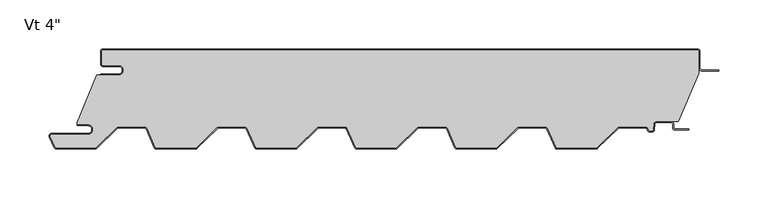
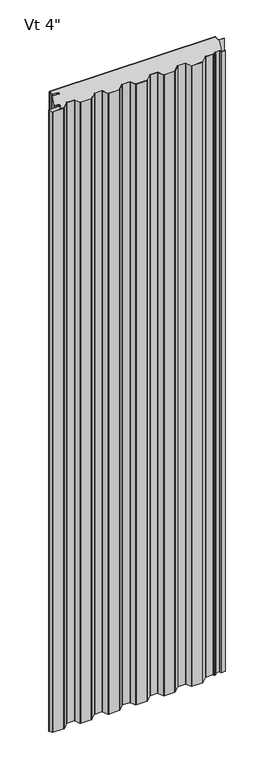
"""IFC4 building model written with IfcOpenShell, lengths in millimetres: plate geometry."""

import ifcopenshell
import ifcopenshell.guid

model = None  # the IFC model being written
_history = None  # IfcOwnerHistory: only IFC2X3 demands one
_inside = {}  # id of a spatial element -> (the spatial element, [elements in it])
_under = {}  # id of a project, library or spatial element -> (it, [spatial elements below it])
_declared = {}  # id of a project -> (the project, [libraries it declares])
_typed = {}  # id of a type object -> (the type object, [elements of that type])
_made_of = {}  # id of a material, layer set ... -> (it, [elements and type objects made of it])


def new_model(schema):
    """Start an empty IFC model of exactly this schema.

    Asked for "IFC4X3", IfcOpenShell would pick the latest addendum, in which some entities
    have other attributes; the version numbers below select the first issue.
    IFC2X3 requires an IfcOwnerHistory on every rooted entity: one is made here for all.
    """
    global model, _history
    if schema == "IFC4X3":
        model = ifcopenshell.file(schema_version=(4, 3, 0, 0))
    else:
        model = ifcopenshell.file(schema=schema)
    _inside.clear()
    _under.clear()
    _declared.clear()
    _typed.clear()
    _made_of.clear()
    _history = None
    if model.schema == "IFC2X3":
        org = make("IfcOrganization", Name="unknown")
        user = make(
            "IfcPersonAndOrganization",
            ThePerson=make("IfcPerson", FamilyName="unknown"),
            TheOrganization=org,
        )
        app = make(
            "IfcApplication",
            ApplicationDeveloper=org,
            Version="unknown",
            ApplicationFullName="unknown",
            ApplicationIdentifier="unknown",
        )
        _history = make(
            "IfcOwnerHistory",
            OwningUser=user,
            OwningApplication=app,
            ChangeAction="ADDED",
            CreationDate=0,
        )
    return model


def make(cls, **values):
    """One entity of the class cls with the attributes given. An attribute that is None is left unset."""
    return model.create_entity(
        cls, **{name: value for name, value in values.items() if value is not None}
    )


def rooted(cls, **values):
    """An entity with a GlobalId (a new one), such as an element, a storey or a relation."""
    return make(cls, GlobalId=ifcopenshell.guid.new(), OwnerHistory=_history, **values)


def si_unit(unit_type, name, prefix=None):
    """IfcSIUnit, for example si_unit("LENGTHUNIT", "METRE", prefix="MILLI")."""
    return make("IfcSIUnit", UnitType=unit_type, Prefix=prefix, Name=name)


def assignment(units):
    """IfcUnitAssignment: the units of a project."""
    return None if units is None else make("IfcUnitAssignment", Units=units)


def point(xyz):
    """IfcCartesianPoint."""
    return None if xyz is None else make("IfcCartesianPoint", Coordinates=xyz)


def direction(xyz):
    """IfcDirection."""
    return None if xyz is None else make("IfcDirection", DirectionRatios=xyz)


def frame(location, z_axis=None, x_axis=None):
    """IfcAxis2Placement3D, a coordinate frame: its origin and axes. An axis left out is left unset."""
    return make(
        "IfcAxis2Placement3D",
        Location=point(location),
        Axis=direction(z_axis),
        RefDirection=direction(x_axis),
    )


def frame_2d(location, x_axis=None):
    """IfcAxis2Placement2D, a coordinate frame in the plane: its origin and x axis."""
    return make(
        "IfcAxis2Placement2D", Location=point(location), RefDirection=direction(x_axis)
    )


def origin():
    """The frame at (0, 0, 0) with its axes left unset."""
    return frame((0.0, 0.0, 0.0))


def origin_with_axes():
    """The frame at (0, 0, 0) with the z axis (0, 0, 1) and the x axis (1, 0, 0) written out."""
    return frame((0.0, 0.0, 0.0), z_axis=(0.0, 0.0, 1.0), x_axis=(1.0, 0.0, 0.0))


def place(relative_to, where):
    """IfcLocalPlacement: puts the frame where relative to a parent placement (None: the world)."""
    return make(
        "IfcLocalPlacement", PlacementRelTo=relative_to, RelativePlacement=where
    )


def context(
    kind, dimensions, precision=None, world=None, true_north=None, identifier=None
):
    """IfcGeometricRepresentationContext, for example the 3D "Model" context."""
    return make(
        "IfcGeometricRepresentationContext",
        ContextIdentifier=identifier,
        ContextType=kind,
        CoordinateSpaceDimension=dimensions,
        Precision=precision,
        WorldCoordinateSystem=world,
        TrueNorth=true_north,
    )


def project(units=None, contexts=None):
    """IfcProject with its units and contexts."""
    return rooted(
        "IfcProject",
        Name="project",
        RepresentationContexts=contexts,
        UnitsInContext=assignment(units),
    )


def spatial(cls, under=None, at=None, **own):
    """A site, building, storey or space (cls), placed at a placement, below another one or the project."""
    s = rooted(cls, ObjectPlacement=at, **own)
    if under is not None:
        _under.setdefault(under.id(), (under, []))[1].append(s)
    return s


def polyline(points):
    """IfcPolyline through the points."""
    return make("IfcPolyline", Points=[point(p) for p in points])


def circle_curve(where, radius):
    """IfcCircle in the frame where."""
    return make("IfcCircle", Position=where, Radius=radius)


def trimmed(basis, trim1, trim2, sense, master):
    """IfcTrimmedCurve: the piece of a basis curve between two trims."""
    return make(
        "IfcTrimmedCurve",
        BasisCurve=basis,
        Trim1=trim1,
        Trim2=trim2,
        SenseAgreement=sense,
        MasterRepresentation=master,
    )


def segment(curve, same_sense, transition):
    """IfcCompositeCurveSegment."""
    return make(
        "IfcCompositeCurveSegment",
        Transition=transition,
        SameSense=same_sense,
        ParentCurve=curve,
    )


def composite_curve(segments, self_intersect=None):
    """IfcCompositeCurve: segments joined end to end."""
    return make("IfcCompositeCurve", Segments=segments, SelfIntersect=self_intersect)


def outline(outer, holes=None, kind="AREA"):
    """IfcArbitraryClosedProfileDef: a profile drawn as a closed curve; with holes, ...WithVoids."""
    if holes is None:
        return make("IfcArbitraryClosedProfileDef", ProfileType=kind, OuterCurve=outer)
    return make(
        "IfcArbitraryProfileDefWithVoids",
        ProfileType=kind,
        OuterCurve=outer,
        InnerCurves=holes,
    )


def extrude(swept, where, along, depth):
    """IfcExtrudedAreaSolid: the profile swept, set in the frame where, extruded along a direction by depth."""
    return make(
        "IfcExtrudedAreaSolid",
        SweptArea=swept,
        Position=where,
        ExtrudedDirection=direction(along),
        Depth=depth,
    )


def shape(context_of_items, identifier, shape_type, items):
    """IfcShapeRepresentation: the items that make up one representation, for example the "Body"."""
    return make(
        "IfcShapeRepresentation",
        ContextOfItems=context_of_items,
        RepresentationIdentifier=identifier,
        RepresentationType=shape_type,
        Items=items,
    )


def source(mapping_origin, context_of_items, identifier, shape_type, items):
    """IfcRepresentationMap: a shape defined once, which mapped items show again and again."""
    return make(
        "IfcRepresentationMap",
        MappingOrigin=mapping_origin,
        MappedRepresentation=shape(context_of_items, identifier, shape_type, items),
    )


def transform(
    local_origin,
    x_axis=None,
    y_axis=None,
    z_axis=None,
    scale=None,
    scale2=None,
    scale3=None,
    uniform=True,
):
    """IfcCartesianTransformationOperator3D, or its non-uniform kind. x_axis, y_axis, z_axis: its Axis1, 2, 3."""
    if uniform:
        return make(
            "IfcCartesianTransformationOperator3D",
            Axis1=direction(x_axis),
            Axis2=direction(y_axis),
            LocalOrigin=point(local_origin),
            Scale=scale,
            Axis3=direction(z_axis),
        )
    return make(
        "IfcCartesianTransformationOperator3DnonUniform",
        Axis1=direction(x_axis),
        Axis2=direction(y_axis),
        LocalOrigin=point(local_origin),
        Scale=scale,
        Axis3=direction(z_axis),
        Scale2=scale2,
        Scale3=scale3,
    )


def mapped(mapping_source, mapping_target):
    """IfcMappedItem: shows the shape of a source again, moved by a transform."""
    return make(
        "IfcMappedItem", MappingSource=mapping_source, MappingTarget=mapping_target
    )


def made_of(thing, what):
    """Note that an element or type object is made of a material, layer set ...; save() writes the relation."""
    if what is not None:
        _made_of.setdefault(what.id(), (what, []))[1].append(thing)
    return thing


def element(
    cls,
    number,
    at=None,
    inside=None,
    cuts=None,
    type_object=None,
    material=None,
    context=None,
    identifier="Body",
    shape_type=None,
    held_by="IfcProductDefinitionShape",
    body=None,
    shapes=None,
    **own,
):
    """One element of the class cls, such as IfcWall. Its Tag is "e" and its number.

    at: its placement. inside: the storey or other place that contains it. cuts: it is an
    opening in that element (IfcRelVoidsElement). A single representation is given by context,
    identifier, shape_type and body (its items); several are given by shapes. held_by: the class
    of the entity that holds the representations. save() writes the other relations.
    """
    e = rooted(cls, Tag="e%d" % number, ObjectPlacement=at, **own)
    if body is not None:
        shapes = [shape(context, identifier, shape_type, body)]
    if shapes is not None:
        e.Representation = make(held_by, Representations=shapes)
    if inside is not None:
        _inside.setdefault(inside.id(), (inside, []))[1].append(e)
    if cuts is not None:
        rooted(
            "IfcRelVoidsElement", RelatingBuildingElement=cuts, RelatedOpeningElement=e
        )
    if type_object is not None:
        _typed.setdefault(type_object.id(), (type_object, []))[1].append(e)
    return made_of(e, material)


def aggregate(whole, parts):
    """IfcRelAggregates: a whole, such as a stair, and the parts it consists of."""
    return rooted("IfcRelAggregates", RelatingObject=whole, RelatedObjects=parts)


def save(model, path):
    """Write the relations noted so far, then the file.

    IfcRelAggregates (storeys below a building ...), IfcRelContainedInSpatialStructure (elements
    in a storey), IfcRelDefinesByType, IfcRelAssociatesMaterial and IfcRelDeclares: one each for
    every whole, place, type object, material and project.
    """
    for whole, parts in _under.values():
        aggregate(whole, parts)
    for where, things in _inside.values():
        rooted(
            "IfcRelContainedInSpatialStructure",
            RelatedElements=things,
            RelatingStructure=where,
        )
    for kind, things in _typed.values():
        rooted("IfcRelDefinesByType", RelatedObjects=things, RelatingType=kind)
    for what, things in _made_of.values():
        rooted("IfcRelAssociatesMaterial", RelatedObjects=things, RelatingMaterial=what)
    for by, libraries in _declared.values():
        rooted("IfcRelDeclares", RelatingContext=by, RelatedDefinitions=libraries)
    model.write(path)


def plate_fcdffee8(model_context):
    return source(origin(), model_context, "Body", "SweptSolid", [
        extrude(outline(composite_curve([segment(trimmed(circle_curve(frame_2d((-285.74375, -21.4324412)), 4.96875), [point((-285.74375, -26.4011912))], [point((-285.74375, -16.4636912))], True, "CARTESIAN"), True, "CONTINUOUS"), segment(polyline([(-285.74375, -16.4636912), (-301.61875, -16.4636912)]), True, "CONTINUOUS"), segment(trimmed(circle_curve(frame_2d((-301.61875, -15.0824412)), 1.38125), [point((-301.61875, -16.4636912))], [point((-303.0, -15.0824412))], False, "CARTESIAN"), True, "CONTINUOUS"), segment(polyline([(-303.0, -15.0824412), (-303.0, -2.3824412)]), True, "CONTINUOUS"), segment(trimmed(circle_curve(frame_2d((-301.61875, -2.3824412)), 1.38125), [point((-303.0, -2.3824412))], [point((-301.61875, -1.0011912))], False, "CARTESIAN"), True, "CONTINUOUS"), segment(polyline([(-301.61875, -1.0011912), (301.63125, -1.0011912)]), True, "CONTINUOUS"), segment(trimmed(circle_curve(frame_2d((301.63125, -2.3824412)), 1.38125), [point((301.63125, -1.0011912))], [point((303.0125, -2.3824412))], False, "CARTESIAN"), True, "CONTINUOUS"), segment(polyline([(303.0125, -2.3824412), (303.0125, -24.8719682), (282.1955434, -73.6136912), (259.7683457, -73.6136912)]), True, "CONTINUOUS"), segment(trimmed(circle_curve(frame_2d((259.7683457, -76.2011912)), 2.5875), [point((259.7683457, -73.6136912))], [point((257.1843918, -76.0657719))], True, "CARTESIAN"), True, "CONTINUOUS"), segment(polyline([(257.1843918, -76.0657719), (256.8823155, -81.8297302)]), True, "CONTINUOUS"), segment(trimmed(circle_curve(frame_2d((255.5029585, -81.7574412)), 1.38125), [point((256.8823155, -81.8297302))], [point((255.5029585, -83.1386912))], False, "CARTESIAN"), True, "CONTINUOUS"), segment(polyline([(255.5029585, -83.1386912), (253.1754519, -83.1386912)]), True, "CONTINUOUS"), segment(trimmed(circle_curve(frame_2d((253.1754519, -81.7574412)), 1.38125), [point((253.1754519, -83.1386912))], [point((251.9124516, -82.3166208))], False, "CARTESIAN"), True, "CONTINUOUS"), segment(polyline([(251.9124516, -82.3166208), (251.1640306, -80.6261871)]), True, "CONTINUOUS"), segment(trimmed(circle_curve(frame_2d((248.7980481, -81.6737)), 2.5875), [point((251.1640306, -80.6261871))], [point((248.7980481, -79.0862))], True, "CARTESIAN"), True, "CONTINUOUS"), segment(polyline([(248.7980481, -79.0862), (222.2742003, -79.0862)]), True, "CONTINUOUS"), segment(trimmed(circle_curve(frame_2d((222.2742003, -81.6737)), 2.5875), [point((222.2742003, -79.0862))], [point((220.4745496, -79.8145567))], True, "CARTESIAN"), True, "CONTINUOUS"), segment(polyline([(220.4745496, -79.8145567), (199.4036462, -100.2111912)]), True, "CONTINUOUS"), segment(trimmed(circle_curve(frame_2d((198.4429631, -99.21875)), 1.38125), [point((199.4036462, -100.2111912))], [point((198.4429631, -100.6))], False, "CARTESIAN"), True, "CONTINUOUS"), segment(polyline([(198.4429631, -100.6), (159.3062557, -100.6)]), True, "CONTINUOUS"), segment(trimmed(circle_curve(frame_2d((159.3062557, -99.21875)), 1.38125), [point((159.3062557, -100.6))], [point((158.0432554, -99.7779296))], False, "CARTESIAN"), True, "CONTINUOUS"), segment(polyline([(158.0432554, -99.7779296), (149.5640306, -80.6261871)]), True, "CONTINUOUS"), segment(trimmed(circle_curve(frame_2d((147.1980481, -81.6737)), 2.5875), [point((149.5640306, -80.6261871))], [point((147.1980481, -79.0862))], True, "CARTESIAN"), True, "CONTINUOUS"), segment(polyline([(147.1980481, -79.0862), (120.6742003, -79.0862)]), True, "CONTINUOUS"), segment(trimmed(circle_curve(frame_2d((120.6742003, -81.6737)), 2.5875), [point((120.6742003, -79.0862))], [point((118.8745496, -79.8145567))], True, "CARTESIAN"), True, "CONTINUOUS"), segment(polyline([(118.8745496, -79.8145567), (97.8036462, -100.2111912)]), True, "CONTINUOUS"), segment(trimmed(circle_curve(frame_2d((96.8429631, -99.21875)), 1.38125), [point((97.8036462, -100.2111912))], [point((96.8429631, -100.6))], False, "CARTESIAN"), True, "CONTINUOUS"), segment(polyline([(96.8429631, -100.6), (57.7062557, -100.6)]), True, "CONTINUOUS"), segment(trimmed(circle_curve(frame_2d((57.7062557, -99.21875)), 1.38125), [point((57.7062557, -100.6))], [point((56.4432554, -99.7779296))], False, "CARTESIAN"), True, "CONTINUOUS"), segment(polyline([(56.4432554, -99.7779296), (47.9640306, -80.6261871)]), True, "CONTINUOUS"), segment(trimmed(circle_curve(frame_2d((45.5980481, -81.6737)), 2.5875), [point((47.9640306, -80.6261871))], [point((45.5980481, -79.0862))], True, "CARTESIAN"), True, "CONTINUOUS"), segment(polyline([(45.5980481, -79.0862), (19.0742003, -79.0862)]), True, "CONTINUOUS"), segment(trimmed(circle_curve(frame_2d((19.0742003, -81.6737)), 2.5875), [point((19.0742003, -79.0862))], [point((17.2745496, -79.8145567))], True, "CARTESIAN"), True, "CONTINUOUS"), segment(polyline([(17.2745496, -79.8145567), (-3.7963538, -100.2111912)]), True, "CONTINUOUS"), segment(trimmed(circle_curve(frame_2d((-4.7570369, -99.21875)), 1.38125), [point((-3.7963538, -100.2111912))], [point((-4.7570369, -100.6))], False, "CARTESIAN"), True, "CONTINUOUS"), segment(polyline([(-4.7570369, -100.6), (-43.8937443, -100.6)]), True, "CONTINUOUS"), segment(trimmed(circle_curve(frame_2d((-43.8937443, -99.21875)), 1.38125), [point((-43.8937443, -100.6))], [point((-45.1567446, -99.7779296))], False, "CARTESIAN"), True, "CONTINUOUS"), segment(polyline([(-45.1567446, -99.7779296), (-53.6359694, -80.6261871)]), True, "CONTINUOUS"), segment(trimmed(circle_curve(frame_2d((-56.0019519, -81.6737)), 2.5875), [point((-53.6359694, -80.6261871))], [point((-56.0019519, -79.0862))], True, "CARTESIAN"), True, "CONTINUOUS"), segment(polyline([(-56.0019519, -79.0862), (-82.5257997, -79.0862)]), True, "CONTINUOUS"), segment(trimmed(circle_curve(frame_2d((-82.5257997, -81.6737)), 2.5875), [point((-82.5257997, -79.0862))], [point((-84.3254504, -79.8145567))], True, "CARTESIAN"), True, "CONTINUOUS"), segment(polyline([(-84.3254504, -79.8145567), (-105.3963538, -100.2111912)]), True, "CONTINUOUS"), segment(trimmed(circle_curve(frame_2d((-106.3570369, -99.21875)), 1.38125), [point((-105.3963538, -100.2111912))], [point((-106.3570369, -100.6))], False, "CARTESIAN"), True, "CONTINUOUS"), segment(polyline([(-106.3570369, -100.6), (-145.4937443, -100.6)]), True, "CONTINUOUS"), segment(trimmed(circle_curve(frame_2d((-145.4937443, -99.21875)), 1.38125), [point((-145.4937443, -100.6))], [point((-146.7567446, -99.7779296))], False, "CARTESIAN"), True, "CONTINUOUS"), segment(polyline([(-146.7567446, -99.7779296), (-155.2359694, -80.6261871)]), True, "CONTINUOUS"), segment(trimmed(circle_curve(frame_2d((-157.6019519, -81.6737)), 2.5875), [point((-155.2359694, -80.6261871))], [point((-157.6019519, -79.0862))], True, "CARTESIAN"), True, "CONTINUOUS"), segment(polyline([(-157.6019519, -79.0862), (-184.1257997, -79.0862)]), True, "CONTINUOUS"), segment(trimmed(circle_curve(frame_2d((-184.1257997, -81.6737)), 2.5875), [point((-184.1257997, -79.0862))], [point((-185.9254504, -79.8145567))], True, "CARTESIAN"), True, "CONTINUOUS"), segment(polyline([(-185.9254504, -79.8145567), (-206.9963538, -100.2111912)]), True, "CONTINUOUS"), segment(trimmed(circle_curve(frame_2d((-207.9570369, -99.21875)), 1.38125), [point((-206.9963538, -100.2111912))], [point((-207.9570369, -100.6))], False, "CARTESIAN"), True, "CONTINUOUS"), segment(polyline([(-207.9570369, -100.6), (-247.0937443, -100.6)]), True, "CONTINUOUS"), segment(trimmed(circle_curve(frame_2d((-247.0937443, -99.21875)), 1.38125), [point((-247.0937443, -100.6))], [point((-248.3567446, -99.7779296))], False, "CARTESIAN"), True, "CONTINUOUS"), segment(polyline([(-248.3567446, -99.7779296), (-256.8359694, -80.6261871)]), True, "CONTINUOUS"), segment(trimmed(circle_curve(frame_2d((-259.2019519, -81.6737)), 2.5875), [point((-256.8359694, -80.6261871))], [point((-259.2019519, -79.0862))], True, "CARTESIAN"), True, "CONTINUOUS"), segment(polyline([(-259.2019519, -79.0862), (-285.7257997, -79.0862)]), True, "CONTINUOUS"), segment(trimmed(circle_curve(frame_2d((-285.7257997, -81.6737)), 2.5875), [point((-285.7257997, -79.0862))], [point((-287.5254504, -79.8145567))], True, "CARTESIAN"), True, "CONTINUOUS"), segment(polyline([(-287.5254504, -79.8145567), (-308.3876931, -100.0092077)]), True, "CONTINUOUS"), segment(trimmed(circle_curve(frame_2d((-309.8474446, -98.5012)), 2.0988), [point((-308.3876931, -100.0092077))], [point((-309.8474446, -100.6))], False, "CARTESIAN"), True, "CONTINUOUS"), segment(polyline([(-309.8474446, -100.6), (-348.6937443, -100.6)]), True, "CONTINUOUS"), segment(trimmed(circle_curve(frame_2d((-348.6937443, -99.21875)), 1.38125), [point((-348.6937443, -100.6))], [point((-349.9567446, -99.7779296))], False, "CARTESIAN"), True, "CONTINUOUS"), segment(polyline([(-349.9567446, -99.7779296), (-354.8761552, -88.6666208)]), True, "CONTINUOUS"), segment(trimmed(circle_curve(frame_2d((-353.6131549, -88.1074412)), 1.38125), [point((-354.8761552, -88.6666208))], [point((-353.6131549, -86.7261912))], False, "CARTESIAN"), True, "CONTINUOUS"), segment(polyline([(-353.6131549, -86.7261912), (-316.7, -86.7261912)]), True, "CONTINUOUS"), segment(trimmed(circle_curve(frame_2d((-316.7, -81.7574412)), 4.96875), [point((-316.7, -86.7261912))], [point((-316.7, -76.7886912))], True, "CARTESIAN"), True, "CONTINUOUS"), segment(polyline([(-316.7, -76.7886912), (-327.8125, -76.7886912), (-327.8125, -74.633822), (-307.9914112, -26.4011912), (-285.74375, -26.4011912)]), True, "CONTINUOUS")], self_intersect=False)), origin_with_axes(), (0.0, 0.0, 1.0), 2400.0),
        extrude(outline(composite_curve([segment(polyline([(-304.0, -25.4), (-285.74375, -25.4)]), True, "CONTINUOUS"), segment(trimmed(circle_curve(frame_2d((-285.74375, -21.43125)), 3.96875), [point((-285.74375, -25.4))], [point((-285.74375, -17.4625))], True, "CARTESIAN"), True, "CONTINUOUS"), segment(polyline([(-285.74375, -17.4625), (-301.61875, -17.4625)]), True, "CONTINUOUS"), segment(trimmed(circle_curve(frame_2d((-301.61875, -15.08125)), 2.38125), [point((-301.61875, -17.4625))], [point((-304.0, -15.08125))], False, "CARTESIAN"), True, "CONTINUOUS"), segment(polyline([(-304.0, -15.08125), (-304.0, -2.38125)]), True, "CONTINUOUS"), segment(trimmed(circle_curve(frame_2d((-301.61875, -2.38125)), 2.38125), [point((-304.0, -2.38125))], [point((-301.61875, 0.0))], False, "CARTESIAN"), True, "CONTINUOUS"), segment(polyline([(-301.61875, 0.0), (301.63125, 0.0)]), True, "CONTINUOUS"), segment(trimmed(circle_curve(frame_2d((301.63125, -2.38125)), 2.38125), [point((301.63125, 0.0))], [point((304.0125, -2.38125))], False, "CARTESIAN"), True, "CONTINUOUS"), segment(polyline([(304.0125, -2.38125), (304.0125, -19.446875)]), True, "CONTINUOUS"), segment(trimmed(circle_curve(frame_2d((305.6, -19.446875)), 1.5875), [point((304.0125, -19.446875))], [point((305.6, -21.034375))], True, "CARTESIAN"), True, "CONTINUOUS"), segment(polyline([(305.6, -21.034375), (323.0625, -21.034375), (323.0625, -22.034375), (305.6, -22.034375)]), True, "CONTINUOUS"), segment(trimmed(circle_curve(frame_2d((305.6, -19.446875)), 2.5875), [point((305.6, -22.034375))], [point((303.0125, -19.446875))], False, "CARTESIAN"), True, "CONTINUOUS"), segment(polyline([(303.0125, -19.446875), (303.0125, -2.38125)]), True, "CONTINUOUS"), segment(trimmed(circle_curve(frame_2d((301.63125, -2.38125)), 1.38125), [point((303.0125, -2.38125))], [point((301.63125, -1.0))], True, "CARTESIAN"), True, "CONTINUOUS"), segment(polyline([(301.63125, -1.0), (-301.61875, -1.0)]), True, "CONTINUOUS"), segment(trimmed(circle_curve(frame_2d((-301.61875, -2.38125)), 1.38125), [point((-301.61875, -1.0))], [point((-303.0, -2.38125))], True, "CARTESIAN"), True, "CONTINUOUS"), segment(polyline([(-303.0, -2.38125), (-303.0, -15.08125)]), True, "CONTINUOUS"), segment(trimmed(circle_curve(frame_2d((-301.61875, -15.08125)), 1.38125), [point((-303.0, -15.08125))], [point((-301.61875, -16.4625))], True, "CARTESIAN"), True, "CONTINUOUS"), segment(polyline([(-301.61875, -16.4625), (-285.74375, -16.4625)]), True, "CONTINUOUS"), segment(trimmed(circle_curve(frame_2d((-285.74375, -21.43125)), 4.96875), [point((-285.74375, -16.4625))], [point((-285.74375, -26.4))], False, "CARTESIAN"), True, "CONTINUOUS"), segment(polyline([(-285.74375, -26.4), (-304.0, -26.4), (-304.0, -25.4)]), True, "CONTINUOUS")], self_intersect=False)), origin_with_axes(), (0.0, 0.0, 1.0), 2400.0),
        extrude(outline(composite_curve([segment(trimmed(circle_curve(frame_2d((-316.7, -81.7574412)), 3.96875), [point((-316.7, -85.7261912))], [point((-316.7, -77.7886912))], True, "CARTESIAN"), True, "CONTINUOUS"), segment(polyline([(-316.7, -77.7886912), (-327.8125, -77.7886912), (-327.8125, -76.7886912), (-316.7, -76.7886912)]), True, "CONTINUOUS"), segment(trimmed(circle_curve(frame_2d((-316.7, -81.7574412)), 4.96875), [point((-316.7, -76.7886912))], [point((-316.7, -86.7261912))], False, "CARTESIAN"), True, "CONTINUOUS"), segment(polyline([(-316.7, -86.7261912), (-353.6131549, -86.7261912)]), True, "CONTINUOUS"), segment(trimmed(circle_curve(frame_2d((-353.6131549, -88.1074412)), 1.38125), [point((-353.6131549, -86.7261912))], [point((-354.8761552, -88.6666208))], True, "CARTESIAN"), True, "CONTINUOUS"), segment(polyline([(-354.8761552, -88.6666208), (-349.9567446, -99.7779296)]), True, "CONTINUOUS"), segment(trimmed(circle_curve(frame_2d((-348.6937443, -99.21875)), 1.38125), [point((-349.9567446, -99.7779296))], [point((-348.6937443, -100.6))], True, "CARTESIAN"), True, "CONTINUOUS"), segment(polyline([(-348.6937443, -100.6), (-309.8474446, -100.6)]), True, "CONTINUOUS"), segment(trimmed(circle_curve(frame_2d((-309.8474446, -98.5012)), 2.0988), [point((-309.8474446, -100.6))], [point((-308.3876931, -100.0092077))], True, "CARTESIAN"), True, "CONTINUOUS"), segment(polyline([(-308.3876931, -100.0092077), (-287.5254504, -79.8145567)]), True, "CONTINUOUS"), segment(trimmed(circle_curve(frame_2d((-285.7257997, -81.6737)), 2.5875), [point((-287.5254504, -79.8145567))], [point((-285.7257997, -79.0862))], False, "CARTESIAN"), True, "CONTINUOUS"), segment(polyline([(-285.7257997, -79.0862), (-259.2019519, -79.0862)]), True, "CONTINUOUS"), segment(trimmed(circle_curve(frame_2d((-259.2019519, -81.6737)), 2.5875), [point((-259.2019519, -79.0862))], [point((-256.8359694, -80.6261871))], False, "CARTESIAN"), True, "CONTINUOUS"), segment(polyline([(-256.8359694, -80.6261871), (-248.3567446, -99.7779296)]), True, "CONTINUOUS"), segment(trimmed(circle_curve(frame_2d((-247.0937443, -99.21875)), 1.38125), [point((-248.3567446, -99.7779296))], [point((-247.0937443, -100.6))], True, "CARTESIAN"), True, "CONTINUOUS"), segment(polyline([(-247.0937443, -100.6), (-207.9570369, -100.6)]), True, "CONTINUOUS"), segment(trimmed(circle_curve(frame_2d((-207.9570369, -99.21875)), 1.38125), [point((-207.9570369, -100.6))], [point((-206.9963538, -100.2111912))], True, "CARTESIAN"), True, "CONTINUOUS"), segment(polyline([(-206.9963538, -100.2111912), (-185.9254504, -79.8145567)]), True, "CONTINUOUS"), segment(trimmed(circle_curve(frame_2d((-184.1257997, -81.6737)), 2.5875), [point((-185.9254504, -79.8145567))], [point((-184.1257997, -79.0862))], False, "CARTESIAN"), True, "CONTINUOUS"), segment(polyline([(-184.1257997, -79.0862), (-157.6019519, -79.0862)]), True, "CONTINUOUS"), segment(trimmed(circle_curve(frame_2d((-157.6019519, -81.6737)), 2.5875), [point((-157.6019519, -79.0862))], [point((-155.2359694, -80.6261871))], False, "CARTESIAN"), True, "CONTINUOUS"), segment(polyline([(-155.2359694, -80.6261871), (-146.7567446, -99.7779296)]), True, "CONTINUOUS"), segment(trimmed(circle_curve(frame_2d((-145.4937443, -99.21875)), 1.38125), [point((-146.7567446, -99.7779296))], [point((-145.4937443, -100.6))], True, "CARTESIAN"), True, "CONTINUOUS"), segment(polyline([(-145.4937443, -100.6), (-106.3570369, -100.6)]), True, "CONTINUOUS"), segment(trimmed(circle_curve(frame_2d((-106.3570369, -99.21875)), 1.38125), [point((-106.3570369, -100.6))], [point((-105.3963538, -100.2111912))], True, "CARTESIAN"), True, "CONTINUOUS"), segment(polyline([(-105.3963538, -100.2111912), (-84.3254504, -79.8145567)]), True, "CONTINUOUS"), segment(trimmed(circle_curve(frame_2d((-82.5257997, -81.6737)), 2.5875), [point((-84.3254504, -79.8145567))], [point((-82.5257997, -79.0862))], False, "CARTESIAN"), True, "CONTINUOUS"), segment(polyline([(-82.5257997, -79.0862), (-56.0019519, -79.0862)]), True, "CONTINUOUS"), segment(trimmed(circle_curve(frame_2d((-56.0019519, -81.6737)), 2.5875), [point((-56.0019519, -79.0862))], [point((-53.6359694, -80.6261871))], False, "CARTESIAN"), True, "CONTINUOUS"), segment(polyline([(-53.6359694, -80.6261871), (-45.1567446, -99.7779296)]), True, "CONTINUOUS"), segment(trimmed(circle_curve(frame_2d((-43.8937443, -99.21875)), 1.38125), [point((-45.1567446, -99.7779296))], [point((-43.8937443, -100.6))], True, "CARTESIAN"), True, "CONTINUOUS"), segment(polyline([(-43.8937443, -100.6), (-4.7570369, -100.6)]), True, "CONTINUOUS"), segment(trimmed(circle_curve(frame_2d((-4.7570369, -99.21875)), 1.38125), [point((-4.7570369, -100.6))], [point((-3.7963538, -100.2111912))], True, "CARTESIAN"), True, "CONTINUOUS"), segment(polyline([(-3.7963538, -100.2111912), (17.2745496, -79.8145567)]), True, "CONTINUOUS"), segment(trimmed(circle_curve(frame_2d((19.0742003, -81.6737)), 2.5875), [point((17.2745496, -79.8145567))], [point((19.0742003, -79.0862))], False, "CARTESIAN"), True, "CONTINUOUS"), segment(polyline([(19.0742003, -79.0862), (45.5980481, -79.0862)]), True, "CONTINUOUS"), segment(trimmed(circle_curve(frame_2d((45.5980481, -81.6737)), 2.5875), [point((45.5980481, -79.0862))], [point((47.9640306, -80.6261871))], False, "CARTESIAN"), True, "CONTINUOUS"), segment(polyline([(47.9640306, -80.6261871), (56.4432554, -99.7779296)]), True, "CONTINUOUS"), segment(trimmed(circle_curve(frame_2d((57.7062557, -99.21875)), 1.38125), [point((56.4432554, -99.7779296))], [point((57.7062557, -100.6))], True, "CARTESIAN"), True, "CONTINUOUS"), segment(polyline([(57.7062557, -100.6), (96.8429631, -100.6)]), True, "CONTINUOUS"), segment(trimmed(circle_curve(frame_2d((96.8429631, -99.21875)), 1.38125), [point((96.8429631, -100.6))], [point((97.8036462, -100.2111912))], True, "CARTESIAN"), True, "CONTINUOUS"), segment(polyline([(97.8036462, -100.2111912), (118.8745496, -79.8145567)]), True, "CONTINUOUS"), segment(trimmed(circle_curve(frame_2d((120.6742003, -81.6737)), 2.5875), [point((118.8745496, -79.8145567))], [point((120.6742003, -79.0862))], False, "CARTESIAN"), True, "CONTINUOUS"), segment(polyline([(120.6742003, -79.0862), (147.1980481, -79.0862)]), True, "CONTINUOUS"), segment(trimmed(circle_curve(frame_2d((147.1980481, -81.6737)), 2.5875), [point((147.1980481, -79.0862))], [point((149.5640306, -80.6261871))], False, "CARTESIAN"), True, "CONTINUOUS"), segment(polyline([(149.5640306, -80.6261871), (158.0432554, -99.7779296)]), True, "CONTINUOUS"), segment(trimmed(circle_curve(frame_2d((159.3062557, -99.21875)), 1.38125), [point((158.0432554, -99.7779296))], [point((159.3062557, -100.6))], True, "CARTESIAN"), True, "CONTINUOUS"), segment(polyline([(159.3062557, -100.6), (198.4429631, -100.6)]), True, "CONTINUOUS"), segment(trimmed(circle_curve(frame_2d((198.4429631, -99.21875)), 1.38125), [point((198.4429631, -100.6))], [point((199.4036462, -100.2111912))], True, "CARTESIAN"), True, "CONTINUOUS"), segment(polyline([(199.4036462, -100.2111912), (220.4745496, -79.8145567)]), True, "CONTINUOUS"), segment(trimmed(circle_curve(frame_2d((222.2742003, -81.6737)), 2.5875), [point((220.4745496, -79.8145567))], [point((222.2742003, -79.0862))], False, "CARTESIAN"), True, "CONTINUOUS"), segment(polyline([(222.2742003, -79.0862), (248.7980481, -79.0862)]), True, "CONTINUOUS"), segment(trimmed(circle_curve(frame_2d((248.7980481, -81.6737)), 2.5875), [point((248.7980481, -79.0862))], [point((251.1640306, -80.6261871))], False, "CARTESIAN"), True, "CONTINUOUS"), segment(polyline([(251.1640306, -80.6261871), (251.9124516, -82.3166208)]), True, "CONTINUOUS"), segment(trimmed(circle_curve(frame_2d((253.1754519, -81.7574412)), 1.38125), [point((251.9124516, -82.3166208))], [point((253.1754519, -83.1386912))], True, "CARTESIAN"), True, "CONTINUOUS"), segment(polyline([(253.1754519, -83.1386912), (255.5029585, -83.1386912)]), True, "CONTINUOUS"), segment(trimmed(circle_curve(frame_2d((255.5029585, -81.7574412)), 1.38125), [point((255.5029585, -83.1386912))], [point((256.8823155, -81.8297302))], True, "CARTESIAN"), True, "CONTINUOUS"), segment(polyline([(256.8823155, -81.8297302), (257.1843918, -76.0657719)]), True, "CONTINUOUS"), segment(trimmed(circle_curve(frame_2d((259.7683457, -76.2011912)), 2.5875), [point((257.1843918, -76.0657719))], [point((259.7683457, -73.6136912))], False, "CARTESIAN"), True, "CONTINUOUS"), segment(polyline([(259.7683457, -73.6136912), (274.64375, -73.6136912)]), True, "CONTINUOUS"), segment(trimmed(circle_curve(frame_2d((274.64375, -76.2011912)), 2.5875), [point((274.64375, -73.6136912))], [point((277.23125, -76.2011912))], False, "CARTESIAN"), True, "CONTINUOUS"), segment(polyline([(277.23125, -76.2011912), (277.23125, -79.7730662)]), True, "CONTINUOUS"), segment(trimmed(circle_curve(frame_2d((278.6125, -79.7730662)), 1.38125), [point((277.23125, -79.7730662))], [point((278.6125, -81.1543162))], True, "CARTESIAN"), True, "CONTINUOUS"), segment(polyline([(278.6125, -81.1543162), (292.9, -81.1543162), (292.9, -82.1543162), (278.6125, -82.1543162)]), True, "CONTINUOUS"), segment(trimmed(circle_curve(frame_2d((278.6125, -79.7730662)), 2.38125), [point((278.6125, -82.1543162))], [point((276.23125, -79.7730662))], False, "CARTESIAN"), True, "CONTINUOUS"), segment(polyline([(276.23125, -79.7730662), (276.23125, -76.2011912)]), True, "CONTINUOUS"), segment(trimmed(circle_curve(frame_2d((274.64375, -76.2011912)), 1.5875), [point((276.23125, -76.2011912))], [point((274.64375, -74.6136912))], True, "CARTESIAN"), True, "CONTINUOUS"), segment(polyline([(274.64375, -74.6136912), (259.7683457, -74.6136912)]), True, "CONTINUOUS"), segment(trimmed(circle_curve(frame_2d((259.7683457, -76.2011912)), 1.5875), [point((259.7683457, -74.6136912))], [point((258.1830213, -76.1181078))], True, "CARTESIAN"), True, "CONTINUOUS"), segment(polyline([(258.1830213, -76.1181078), (257.8809451, -81.8820662)]), True, "CONTINUOUS"), segment(trimmed(circle_curve(frame_2d((255.5029585, -81.7574412)), 2.38125), [point((257.8809451, -81.8820662))], [point((255.5029585, -84.1386912))], False, "CARTESIAN"), True, "CONTINUOUS"), segment(polyline([(255.5029585, -84.1386912), (253.1754519, -84.1386912)]), True, "CONTINUOUS"), segment(trimmed(circle_curve(frame_2d((253.1754519, -81.7574412)), 2.38125), [point((253.1754519, -84.1386912))], [point((250.9980623, -82.7214567))], False, "CARTESIAN"), True, "CONTINUOUS"), segment(polyline([(250.9980623, -82.7214567), (250.2496412, -81.031023)]), True, "CONTINUOUS"), segment(trimmed(circle_curve(frame_2d((248.7980481, -81.6737)), 1.5875), [point((250.2496412, -81.031023))], [point((248.7980481, -80.0862))], True, "CARTESIAN"), True, "CONTINUOUS"), segment(polyline([(248.7980481, -80.0862), (222.2742003, -80.0862)]), True, "CONTINUOUS"), segment(trimmed(circle_curve(frame_2d((222.2742003, -81.6737)), 1.5875), [point((222.2742003, -80.0862))], [point((221.1700668, -80.5330662))], True, "CARTESIAN"), True, "CONTINUOUS"), segment(polyline([(221.1700668, -80.5330662), (200.0991634, -100.9297007)]), True, "CONTINUOUS"), segment(trimmed(circle_curve(frame_2d((198.4429631, -99.21875)), 2.38125), [point((200.0991634, -100.9297007))], [point((198.4429631, -101.6))], False, "CARTESIAN"), True, "CONTINUOUS"), segment(polyline([(198.4429631, -101.6), (159.3062557, -101.6)]), True, "CONTINUOUS"), segment(trimmed(circle_curve(frame_2d((159.3062557, -99.21875)), 2.38125), [point((159.3062557, -101.6))], [point((157.1288661, -100.1827655))], False, "CARTESIAN"), True, "CONTINUOUS"), segment(polyline([(157.1288661, -100.1827655), (148.6496412, -81.031023)]), True, "CONTINUOUS"), segment(trimmed(circle_curve(frame_2d((147.1980481, -81.6737)), 1.5875), [point((148.6496412, -81.031023))], [point((147.1980481, -80.0862))], True, "CARTESIAN"), True, "CONTINUOUS"), segment(polyline([(147.1980481, -80.0862), (120.6742003, -80.0862)]), True, "CONTINUOUS"), segment(trimmed(circle_curve(frame_2d((120.6742003, -81.6737)), 1.5875), [point((120.6742003, -80.0862))], [point((119.5700668, -80.5330662))], True, "CARTESIAN"), True, "CONTINUOUS"), segment(polyline([(119.5700668, -80.5330662), (98.4991634, -100.9297007)]), True, "CONTINUOUS"), segment(trimmed(circle_curve(frame_2d((96.8429631, -99.21875)), 2.38125), [point((98.4991634, -100.9297007))], [point((96.8429631, -101.6))], False, "CARTESIAN"), True, "CONTINUOUS"), segment(polyline([(96.8429631, -101.6), (57.7062557, -101.6)]), True, "CONTINUOUS"), segment(trimmed(circle_curve(frame_2d((57.7062557, -99.21875)), 2.38125), [point((57.7062557, -101.6))], [point((55.5288661, -100.1827655))], False, "CARTESIAN"), True, "CONTINUOUS"), segment(polyline([(55.5288661, -100.1827655), (47.0496412, -81.031023)]), True, "CONTINUOUS"), segment(trimmed(circle_curve(frame_2d((45.5980481, -81.6737)), 1.5875), [point((47.0496412, -81.031023))], [point((45.5980481, -80.0862))], True, "CARTESIAN"), True, "CONTINUOUS"), segment(polyline([(45.5980481, -80.0862), (19.0742003, -80.0862)]), True, "CONTINUOUS"), segment(trimmed(circle_curve(frame_2d((19.0742003, -81.6737)), 1.5875), [point((19.0742003, -80.0862))], [point((17.9700668, -80.5330662))], True, "CARTESIAN"), True, "CONTINUOUS"), segment(polyline([(17.9700668, -80.5330662), (-3.1008366, -100.9297007)]), True, "CONTINUOUS"), segment(trimmed(circle_curve(frame_2d((-4.7570369, -99.21875)), 2.38125), [point((-3.1008366, -100.9297007))], [point((-4.7570369, -101.6))], False, "CARTESIAN"), True, "CONTINUOUS"), segment(polyline([(-4.7570369, -101.6), (-43.8937443, -101.6)]), True, "CONTINUOUS"), segment(trimmed(circle_curve(frame_2d((-43.8937443, -99.21875)), 2.38125), [point((-43.8937443, -101.6))], [point((-46.0711339, -100.1827655))], False, "CARTESIAN"), True, "CONTINUOUS"), segment(polyline([(-46.0711339, -100.1827655), (-54.5503588, -81.031023)]), True, "CONTINUOUS"), segment(trimmed(circle_curve(frame_2d((-56.0019519, -81.6737)), 1.5875), [point((-54.5503588, -81.031023))], [point((-56.0019519, -80.0862))], True, "CARTESIAN"), True, "CONTINUOUS"), segment(polyline([(-56.0019519, -80.0862), (-82.5257997, -80.0862)]), True, "CONTINUOUS"), segment(trimmed(circle_curve(frame_2d((-82.5257997, -81.6737)), 1.5875), [point((-82.5257997, -80.0862))], [point((-83.6299332, -80.5330662))], True, "CARTESIAN"), True, "CONTINUOUS"), segment(polyline([(-83.6299332, -80.5330662), (-104.7008366, -100.9297007)]), True, "CONTINUOUS"), segment(trimmed(circle_curve(frame_2d((-106.3570369, -99.21875)), 2.38125), [point((-104.7008366, -100.9297007))], [point((-106.3570369, -101.6))], False, "CARTESIAN"), True, "CONTINUOUS"), segment(polyline([(-106.3570369, -101.6), (-145.4937443, -101.6)]), True, "CONTINUOUS"), segment(trimmed(circle_curve(frame_2d((-145.4937443, -99.21875)), 2.38125), [point((-145.4937443, -101.6))], [point((-147.6711339, -100.1827655))], False, "CARTESIAN"), True, "CONTINUOUS"), segment(polyline([(-147.6711339, -100.1827655), (-156.1503588, -81.031023)]), True, "CONTINUOUS"), segment(trimmed(circle_curve(frame_2d((-157.6019519, -81.6737)), 1.5875), [point((-156.1503588, -81.031023))], [point((-157.6019519, -80.0862))], True, "CARTESIAN"), True, "CONTINUOUS"), segment(polyline([(-157.6019519, -80.0862), (-184.1257997, -80.0862)]), True, "CONTINUOUS"), segment(trimmed(circle_curve(frame_2d((-184.1257997, -81.6737)), 1.5875), [point((-184.1257997, -80.0862))], [point((-185.2299332, -80.5330662))], True, "CARTESIAN"), True, "CONTINUOUS"), segment(polyline([(-185.2299332, -80.5330662), (-206.3008366, -100.9297007)]), True, "CONTINUOUS"), segment(trimmed(circle_curve(frame_2d((-207.9570369, -99.21875)), 2.38125), [point((-206.3008366, -100.9297007))], [point((-207.9570369, -101.6))], False, "CARTESIAN"), True, "CONTINUOUS"), segment(polyline([(-207.9570369, -101.6), (-247.0937443, -101.6)]), True, "CONTINUOUS"), segment(trimmed(circle_curve(frame_2d((-247.0937443, -99.21875)), 2.38125), [point((-247.0937443, -101.6))], [point((-249.2711339, -100.1827655))], False, "CARTESIAN"), True, "CONTINUOUS"), segment(polyline([(-249.2711339, -100.1827655), (-257.7503588, -81.031023)]), True, "CONTINUOUS"), segment(trimmed(circle_curve(frame_2d((-259.2019519, -81.6737)), 1.5875), [point((-257.7503588, -81.031023))], [point((-259.2019519, -80.0862))], True, "CARTESIAN"), True, "CONTINUOUS"), segment(polyline([(-259.2019519, -80.0862), (-285.7257997, -80.0862)]), True, "CONTINUOUS"), segment(trimmed(circle_curve(frame_2d((-285.7257997, -81.6737)), 1.5875), [point((-285.7257997, -80.0862))], [point((-286.8299332, -80.5330662))], True, "CARTESIAN"), True, "CONTINUOUS"), segment(polyline([(-286.8299332, -80.5330662), (-307.6921759, -100.7277172)]), True, "CONTINUOUS"), segment(trimmed(circle_curve(frame_2d((-309.8474446, -98.5012)), 3.0988), [point((-307.6921759, -100.7277172))], [point((-309.8474446, -101.6))], False, "CARTESIAN"), True, "CONTINUOUS"), segment(polyline([(-309.8474446, -101.6), (-348.6937443, -101.6)]), True, "CONTINUOUS"), segment(trimmed(circle_curve(frame_2d((-348.6937443, -99.21875)), 2.38125), [point((-348.6937443, -101.6))], [point((-350.8711339, -100.1827655))], False, "CARTESIAN"), True, "CONTINUOUS"), segment(polyline([(-350.8711339, -100.1827655), (-355.7905446, -89.0714567)]), True, "CONTINUOUS"), segment(trimmed(circle_curve(frame_2d((-353.6131549, -88.1074412)), 2.38125), [point((-355.7905446, -89.0714567))], [point((-353.6131549, -85.7261912))], False, "CARTESIAN"), True, "CONTINUOUS"), segment(polyline([(-353.6131549, -85.7261912), (-316.7, -85.7261912)]), True, "CONTINUOUS")], self_intersect=False)), origin_with_axes(), (0.0, 0.0, 1.0), 2400.0),
    ])


if __name__ == "__main__":
    model = new_model("IFC4")
    model_context = context("Model", 3, world=origin())
    ifc_project = project(units=[si_unit("LENGTHUNIT", "METRE", prefix="MILLI")], contexts=[model_context])
    site = spatial("IfcSite", under=ifc_project)
    building = spatial("IfcBuilding", under=site)
    placement = place(None, origin())
    plate_shape = plate_fcdffee8(model_context)
    element("IfcPlate", 1, ObjectType="KIP-24-DWR-R19-CP-Vt-S : Vt 4\"", at=placement, inside=building, context=model_context, shape_type="MappedRepresentation", body=[
        mapped(plate_shape, transform((0.0, 0.0, 0.0), x_axis=(1.0, 0.0, 0.0), y_axis=(0.0, 1.0, 0.0), z_axis=(0.0, 0.0, 1.0))),
    ])
    save(model, "model.ifc")
